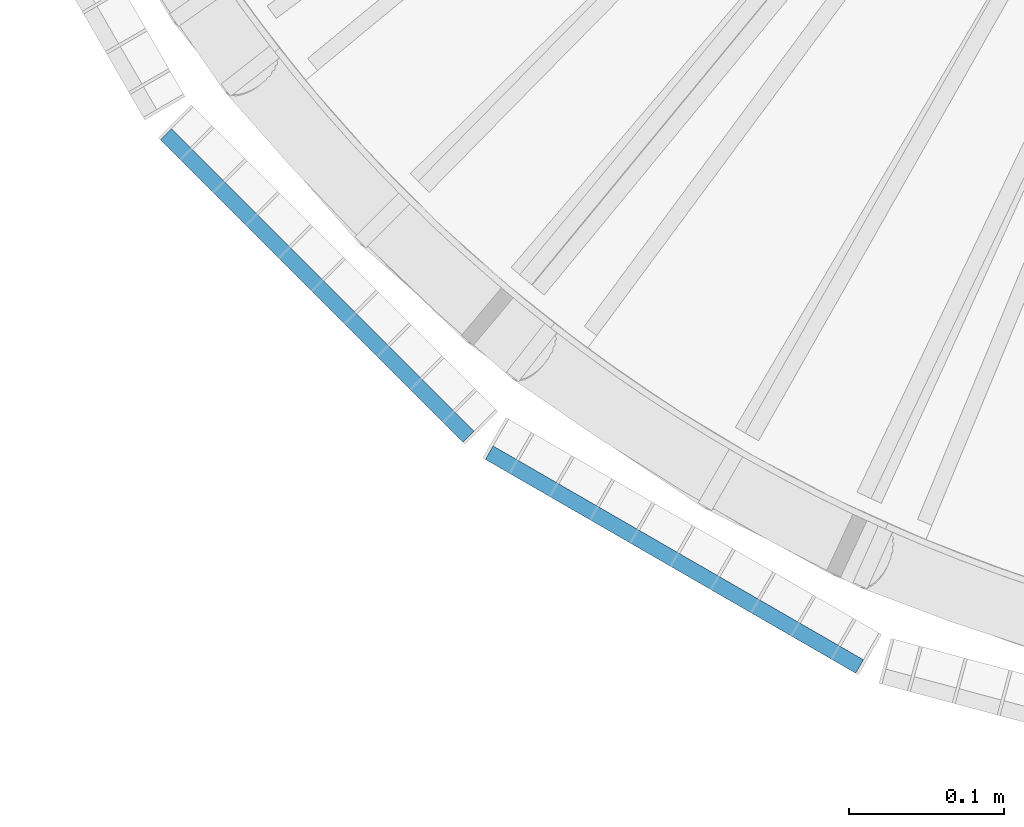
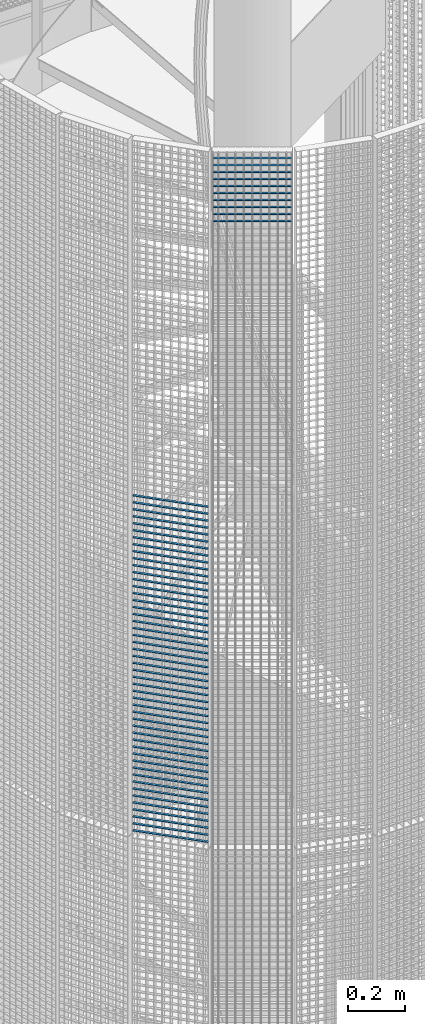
# One storey, part 341 of 1183: 59 beams, 2 elements without a shape of their own.
"""IFC2X3 building model written with IfcOpenShell, lengths in millimetres."""

from ifc_helpers import new_model, si_unit, frame, origin_with_axes, origin_2d_with_axis, place, context, subcontext, project, spatial, rectangle, extrude, material, type_object, element, aggregate, save


model = new_model("IFC2X3")

# Units and contexts
model_context = context("Model", 3, precision=1e-05, world=origin_with_axes())
body_context = subcontext(model_context, "Body", "Model", "MODEL_VIEW")
ifc_project = project(units=[si_unit("LENGTHUNIT", "METRE", prefix="MILLI"), si_unit("AREAUNIT", "SQUARE_METRE"), si_unit("VOLUMEUNIT", "CUBIC_METRE"), si_unit("MASSUNIT", "GRAM", prefix="KILO"), si_unit("TIMEUNIT", "SECOND"), si_unit("PLANEANGLEUNIT", "RADIAN"), si_unit("SOLIDANGLEUNIT", "STERADIAN"), si_unit("THERMODYNAMICTEMPERATUREUNIT", "DEGREE_CELSIUS"), si_unit("LUMINOUSINTENSITYUNIT", "LUMEN")], contexts=[model_context])

# Site, building, storey
site_placement = place(None, origin_with_axes())
site = spatial("IfcSite", under=ifc_project, at=site_placement, Name="Undefined", CompositionType="ELEMENT")
building_placement = place(site_placement, origin_with_axes())
building = spatial("IfcBuilding", under=site, at=building_placement, Name="Undefined", CompositionType="ELEMENT")
storey_placement = place(building_placement, origin_with_axes())
storey = spatial("IfcBuildingStorey", under=building, at=storey_placement, Name="Undefined", CompositionType="ELEMENT", Elevation=0.0)

# Assembly, beams
assembly_1_placement = place(storey_placement, origin_with_axes())
assembly_1 = element("IfcElementAssembly", 1, at=assembly_1_placement, inside=storey, Name="BORDURE", AssemblyPlace="NOTDEFINED", PredefinedType="NOTDEFINED")
ifc_material = material(Name="STEEL/S235JR")
beam_type = type_object("IfcBeamType", Name="PL2*10", PredefinedType="NOTDEFINED")
beam_1_placement = place(assembly_1_placement, frame((20910.2286510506, -884.927168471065, 16470.0), z_axis=(-0.70710678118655, -0.707106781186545, 0.0), x_axis=(-0.707106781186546, 0.707106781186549, 0.0)))
beam_1 = element("IfcBeam", 2, at=beam_1_placement, type_object=beam_type, material=ifc_material, Name="ENTRETOISE", context=body_context, shape_type="SweptSolid", body=[
    extrude(rectangle(XDim=2.0, YDim=10.0, at=origin_2d_with_axis()), frame((275.999999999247, 9.09494701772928e-13, 1.53210777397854e-14), z_axis=(-1.0, 0.0, 0.0), x_axis=(0.0, -1.0, 0.0)), (0.0, 0.0, 1.0), 276.0),
])
beam_2_placement = place(assembly_1_placement, frame((20910.2286510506, -884.927168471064, 16440.0), z_axis=(-0.70710678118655, -0.707106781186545, 0.0), x_axis=(-0.707106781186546, 0.707106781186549, 0.0)))
beam_2 = element("IfcBeam", 3, at=beam_2_placement, type_object=beam_type, material=ifc_material, Name="ENTRETOISE", context=body_context, shape_type="SweptSolid", body=[
    extrude(rectangle(XDim=2.0, YDim=10.0, at=origin_2d_with_axis()), frame((275.999999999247, 9.09494701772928e-13, 1.53210777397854e-14), z_axis=(-1.0, 0.0, 0.0), x_axis=(0.0, -1.0, 0.0)), (0.0, 0.0, 1.0), 276.0),
])
beam_3_placement = place(assembly_1_placement, frame((20910.2286510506, -884.927168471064, 16410.0), z_axis=(-0.70710678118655, -0.707106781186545, 0.0), x_axis=(-0.707106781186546, 0.707106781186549, 0.0)))
beam_3 = element("IfcBeam", 4, at=beam_3_placement, type_object=beam_type, material=ifc_material, Name="ENTRETOISE", context=body_context, shape_type="SweptSolid", body=[
    extrude(rectangle(XDim=2.0, YDim=10.0, at=origin_2d_with_axis()), frame((275.999999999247, 9.09494701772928e-13, 1.53210777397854e-14), z_axis=(-1.0, 0.0, 0.0), x_axis=(0.0, -1.0, 0.0)), (0.0, 0.0, 1.0), 276.0),
])
beam_4_placement = place(assembly_1_placement, frame((20910.2286510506, -884.927168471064, 16380.0), z_axis=(-0.70710678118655, -0.707106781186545, 0.0), x_axis=(-0.707106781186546, 0.707106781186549, 0.0)))
beam_4 = element("IfcBeam", 5, at=beam_4_placement, type_object=beam_type, material=ifc_material, Name="ENTRETOISE", context=body_context, shape_type="SweptSolid", body=[
    extrude(rectangle(XDim=2.0, YDim=10.0, at=origin_2d_with_axis()), frame((275.999999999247, 9.09494701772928e-13, 1.53210777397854e-14), z_axis=(-1.0, 0.0, 0.0), x_axis=(0.0, -1.0, 0.0)), (0.0, 0.0, 1.0), 276.0),
])
beam_5_placement = place(assembly_1_placement, frame((20910.2286510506, -884.927168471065, 16350.0), z_axis=(-0.70710678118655, -0.707106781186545, 0.0), x_axis=(-0.707106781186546, 0.707106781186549, 0.0)))
beam_5 = element("IfcBeam", 6, at=beam_5_placement, type_object=beam_type, material=ifc_material, Name="ENTRETOISE", context=body_context, shape_type="SweptSolid", body=[
    extrude(rectangle(XDim=2.0, YDim=10.0, at=origin_2d_with_axis()), frame((275.999999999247, 9.09494701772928e-13, 1.53210777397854e-14), z_axis=(-1.0, 0.0, 0.0), x_axis=(0.0, -1.0, 0.0)), (0.0, 0.0, 1.0), 276.0),
])
beam_6_placement = place(assembly_1_placement, frame((20910.2286510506, -884.927168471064, 16320.0), z_axis=(-0.70710678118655, -0.707106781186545, 0.0), x_axis=(-0.707106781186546, 0.707106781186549, 0.0)))
beam_6 = element("IfcBeam", 7, at=beam_6_placement, type_object=beam_type, material=ifc_material, Name="ENTRETOISE", context=body_context, shape_type="SweptSolid", body=[
    extrude(rectangle(XDim=2.0, YDim=10.0, at=origin_2d_with_axis()), frame((275.999999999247, 9.09494701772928e-13, 1.53210777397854e-14), z_axis=(-1.0, 0.0, 0.0), x_axis=(0.0, -1.0, 0.0)), (0.0, 0.0, 1.0), 276.0),
])
beam_7_placement = place(assembly_1_placement, frame((20910.2286510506, -884.927168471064, 16290.0), z_axis=(-0.70710678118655, -0.707106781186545, 0.0), x_axis=(-0.707106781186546, 0.707106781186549, 0.0)))
beam_7 = element("IfcBeam", 8, at=beam_7_placement, type_object=beam_type, material=ifc_material, Name="ENTRETOISE", context=body_context, shape_type="SweptSolid", body=[
    extrude(rectangle(XDim=2.0, YDim=10.0, at=origin_2d_with_axis()), frame((275.999999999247, 9.09494701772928e-13, 1.53210777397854e-14), z_axis=(-1.0, 0.0, 0.0), x_axis=(0.0, -1.0, 0.0)), (0.0, 0.0, 1.0), 276.0),
])
beam_8_placement = place(assembly_1_placement, frame((20910.2286510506, -884.927168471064, 16260.0), z_axis=(-0.70710678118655, -0.707106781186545, 0.0), x_axis=(-0.707106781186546, 0.707106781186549, 0.0)))
beam_8 = element("IfcBeam", 9, at=beam_8_placement, type_object=beam_type, material=ifc_material, Name="ENTRETOISE", context=body_context, shape_type="SweptSolid", body=[
    extrude(rectangle(XDim=2.0, YDim=10.0, at=origin_2d_with_axis()), frame((275.999999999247, 9.09494701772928e-13, 1.53210777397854e-14), z_axis=(-1.0, 0.0, 0.0), x_axis=(0.0, -1.0, 0.0)), (0.0, 0.0, 1.0), 276.0),
])
beam_9_placement = place(assembly_1_placement, frame((20910.2286510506, -884.927168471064, 16230.0), z_axis=(-0.70710678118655, -0.707106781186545, 0.0), x_axis=(-0.707106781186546, 0.707106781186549, 0.0)))
beam_9 = element("IfcBeam", 10, at=beam_9_placement, type_object=beam_type, material=ifc_material, Name="ENTRETOISE", context=body_context, shape_type="SweptSolid", body=[
    extrude(rectangle(XDim=2.0, YDim=10.0, at=origin_2d_with_axis()), frame((275.999999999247, 9.09494701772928e-13, 1.53210777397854e-14), z_axis=(-1.0, 0.0, 0.0), x_axis=(0.0, -1.0, 0.0)), (0.0, 0.0, 1.0), 276.0),
])
beam_10_placement = place(assembly_1_placement, frame((20910.2286510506, -884.927168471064, 16200.0), z_axis=(-0.70710678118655, -0.707106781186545, 0.0), x_axis=(-0.707106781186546, 0.707106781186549, 0.0)))
beam_10 = element("IfcBeam", 11, at=beam_10_placement, type_object=beam_type, material=ifc_material, Name="ENTRETOISE", context=body_context, shape_type="SweptSolid", body=[
    extrude(rectangle(XDim=2.0, YDim=10.0, at=origin_2d_with_axis()), frame((275.999999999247, 9.09494701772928e-13, 1.53210777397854e-14), z_axis=(-1.0, 0.0, 0.0), x_axis=(0.0, -1.0, 0.0)), (0.0, 0.0, 1.0), 276.0),
])
beam_11_placement = place(assembly_1_placement, frame((20910.2286510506, -884.927168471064, 16170.0), z_axis=(-0.70710678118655, -0.707106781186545, 0.0), x_axis=(-0.707106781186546, 0.707106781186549, 0.0)))
beam_11 = element("IfcBeam", 12, at=beam_11_placement, type_object=beam_type, material=ifc_material, Name="ENTRETOISE", context=body_context, shape_type="SweptSolid", body=[
    extrude(rectangle(XDim=2.0, YDim=10.0, at=origin_2d_with_axis()), frame((275.999999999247, 9.09494701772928e-13, 1.53210777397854e-14), z_axis=(-1.0, 0.0, 0.0), x_axis=(0.0, -1.0, 0.0)), (0.0, 0.0, 1.0), 276.0),
])
beam_12_placement = place(assembly_1_placement, frame((20910.2286510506, -884.927168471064, 16140.0), z_axis=(-0.70710678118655, -0.707106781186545, 0.0), x_axis=(-0.707106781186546, 0.707106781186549, 0.0)))
beam_12 = element("IfcBeam", 13, at=beam_12_placement, type_object=beam_type, material=ifc_material, Name="ENTRETOISE", context=body_context, shape_type="SweptSolid", body=[
    extrude(rectangle(XDim=2.0, YDim=10.0, at=origin_2d_with_axis()), frame((275.999999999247, 9.09494701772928e-13, 1.53210777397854e-14), z_axis=(-1.0, 0.0, 0.0), x_axis=(0.0, -1.0, 0.0)), (0.0, 0.0, 1.0), 276.0),
])
beam_13_placement = place(assembly_1_placement, frame((20910.2286510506, -884.927168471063, 15720.0), z_axis=(-0.70710678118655, -0.707106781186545, 0.0), x_axis=(-0.707106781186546, 0.707106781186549, 0.0)))
beam_13 = element("IfcBeam", 14, at=beam_13_placement, type_object=beam_type, material=ifc_material, Name="ENTRETOISE", context=body_context, shape_type="SweptSolid", body=[
    extrude(rectangle(XDim=2.0, YDim=10.0, at=origin_2d_with_axis()), frame((275.999999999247, 9.09494701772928e-13, 1.53210777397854e-14), z_axis=(-1.0, 0.0, 0.0), x_axis=(0.0, -1.0, 0.0)), (0.0, 0.0, 1.0), 276.0),
])
beam_14_placement = place(assembly_1_placement, frame((20910.2286510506, -884.927168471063, 15690.0), z_axis=(-0.70710678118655, -0.707106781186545, 0.0), x_axis=(-0.707106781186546, 0.707106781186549, 0.0)))
beam_14 = element("IfcBeam", 15, at=beam_14_placement, type_object=beam_type, material=ifc_material, Name="ENTRETOISE", context=body_context, shape_type="SweptSolid", body=[
    extrude(rectangle(XDim=2.0, YDim=10.0, at=origin_2d_with_axis()), frame((275.999999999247, 9.09494701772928e-13, 1.53210777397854e-14), z_axis=(-1.0, 0.0, 0.0), x_axis=(0.0, -1.0, 0.0)), (0.0, 0.0, 1.0), 276.0),
])
beam_15_placement = place(assembly_1_placement, frame((20910.2286510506, -884.927168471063, 15750.0), z_axis=(-0.70710678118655, -0.707106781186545, 0.0), x_axis=(-0.707106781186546, 0.707106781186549, 0.0)))
beam_15 = element("IfcBeam", 16, at=beam_15_placement, type_object=beam_type, material=ifc_material, Name="ENTRETOISE", context=body_context, shape_type="SweptSolid", body=[
    extrude(rectangle(XDim=2.0, YDim=10.0, at=origin_2d_with_axis()), frame((275.999999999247, 9.09494701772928e-13, 1.53210777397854e-14), z_axis=(-1.0, 0.0, 0.0), x_axis=(0.0, -1.0, 0.0)), (0.0, 0.0, 1.0), 276.0),
])
beam_16_placement = place(assembly_1_placement, frame((20910.2286510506, -884.927168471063, 15660.0), z_axis=(-0.70710678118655, -0.707106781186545, 0.0), x_axis=(-0.707106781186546, 0.707106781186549, 0.0)))
beam_16 = element("IfcBeam", 17, at=beam_16_placement, type_object=beam_type, material=ifc_material, Name="ENTRETOISE", context=body_context, shape_type="SweptSolid", body=[
    extrude(rectangle(XDim=2.0, YDim=10.0, at=origin_2d_with_axis()), frame((275.999999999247, 9.09494701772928e-13, 1.53210777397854e-14), z_axis=(-1.0, 0.0, 0.0), x_axis=(0.0, -1.0, 0.0)), (0.0, 0.0, 1.0), 276.0),
])
beam_17_placement = place(assembly_1_placement, frame((20910.2286510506, -884.927168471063, 15630.0), z_axis=(-0.70710678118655, -0.707106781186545, 0.0), x_axis=(-0.707106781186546, 0.707106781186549, 0.0)))
beam_17 = element("IfcBeam", 18, at=beam_17_placement, type_object=beam_type, material=ifc_material, Name="ENTRETOISE", context=body_context, shape_type="SweptSolid", body=[
    extrude(rectangle(XDim=2.0, YDim=10.0, at=origin_2d_with_axis()), frame((275.999999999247, 9.09494701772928e-13, 1.53210777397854e-14), z_axis=(-1.0, 0.0, 0.0), x_axis=(0.0, -1.0, 0.0)), (0.0, 0.0, 1.0), 276.0),
])
beam_18_placement = place(assembly_1_placement, frame((20910.2286510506, -884.927168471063, 15780.0), z_axis=(-0.70710678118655, -0.707106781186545, 0.0), x_axis=(-0.707106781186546, 0.707106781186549, 0.0)))
beam_18 = element("IfcBeam", 19, at=beam_18_placement, type_object=beam_type, material=ifc_material, Name="ENTRETOISE", context=body_context, shape_type="SweptSolid", body=[
    extrude(rectangle(XDim=2.0, YDim=10.0, at=origin_2d_with_axis()), frame((275.999999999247, 9.09494701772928e-13, 1.53210777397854e-14), z_axis=(-1.0, 0.0, 0.0), x_axis=(0.0, -1.0, 0.0)), (0.0, 0.0, 1.0), 276.0),
])
beam_19_placement = place(assembly_1_placement, frame((20910.2286510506, -884.927168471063, 15600.0), z_axis=(-0.70710678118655, -0.707106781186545, 0.0), x_axis=(-0.707106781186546, 0.707106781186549, 0.0)))
beam_19 = element("IfcBeam", 20, at=beam_19_placement, type_object=beam_type, material=ifc_material, Name="ENTRETOISE", context=body_context, shape_type="SweptSolid", body=[
    extrude(rectangle(XDim=2.0, YDim=10.0, at=origin_2d_with_axis()), frame((275.999999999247, 9.09494701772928e-13, 1.53210777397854e-14), z_axis=(-1.0, 0.0, 0.0), x_axis=(0.0, -1.0, 0.0)), (0.0, 0.0, 1.0), 276.0),
])
beam_20_placement = place(assembly_1_placement, frame((20910.2286510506, -884.927168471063, 15810.0), z_axis=(-0.70710678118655, -0.707106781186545, 0.0), x_axis=(-0.707106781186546, 0.707106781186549, 0.0)))
beam_20 = element("IfcBeam", 21, at=beam_20_placement, type_object=beam_type, material=ifc_material, Name="ENTRETOISE", context=body_context, shape_type="SweptSolid", body=[
    extrude(rectangle(XDim=2.0, YDim=10.0, at=origin_2d_with_axis()), frame((275.999999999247, 9.09494701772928e-13, 1.53210777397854e-14), z_axis=(-1.0, 0.0, 0.0), x_axis=(0.0, -1.0, 0.0)), (0.0, 0.0, 1.0), 276.0),
])
beam_21_placement = place(assembly_1_placement, frame((20910.2286510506, -884.927168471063, 15570.0), z_axis=(-0.70710678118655, -0.707106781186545, 0.0), x_axis=(-0.707106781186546, 0.707106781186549, 0.0)))
beam_21 = element("IfcBeam", 22, at=beam_21_placement, type_object=beam_type, material=ifc_material, Name="ENTRETOISE", context=body_context, shape_type="SweptSolid", body=[
    extrude(rectangle(XDim=2.0, YDim=10.0, at=origin_2d_with_axis()), frame((275.999999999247, 9.09494701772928e-13, 1.53210777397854e-14), z_axis=(-1.0, 0.0, 0.0), x_axis=(0.0, -1.0, 0.0)), (0.0, 0.0, 1.0), 276.0),
])
beam_22_placement = place(assembly_1_placement, frame((20910.2286510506, -884.927168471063, 15540.0), z_axis=(-0.70710678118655, -0.707106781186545, 0.0), x_axis=(-0.707106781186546, 0.707106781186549, 0.0)))
beam_22 = element("IfcBeam", 23, at=beam_22_placement, type_object=beam_type, material=ifc_material, Name="ENTRETOISE", context=body_context, shape_type="SweptSolid", body=[
    extrude(rectangle(XDim=2.0, YDim=10.0, at=origin_2d_with_axis()), frame((275.999999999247, 9.09494701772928e-13, 1.53210777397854e-14), z_axis=(-1.0, 0.0, 0.0), x_axis=(0.0, -1.0, 0.0)), (0.0, 0.0, 1.0), 276.0),
])
beam_23_placement = place(assembly_1_placement, frame((20910.2286510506, -884.927168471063, 15840.0), z_axis=(-0.70710678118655, -0.707106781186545, 0.0), x_axis=(-0.707106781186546, 0.707106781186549, 0.0)))
beam_23 = element("IfcBeam", 24, at=beam_23_placement, type_object=beam_type, material=ifc_material, Name="ENTRETOISE", context=body_context, shape_type="SweptSolid", body=[
    extrude(rectangle(XDim=2.0, YDim=10.0, at=origin_2d_with_axis()), frame((275.999999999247, 9.09494701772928e-13, 1.53210777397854e-14), z_axis=(-1.0, 0.0, 0.0), x_axis=(0.0, -1.0, 0.0)), (0.0, 0.0, 1.0), 276.0),
])
beam_24_placement = place(assembly_1_placement, frame((20910.2286510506, -884.927168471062, 15510.0), z_axis=(-0.70710678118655, -0.707106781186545, 0.0), x_axis=(-0.707106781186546, 0.707106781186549, 0.0)))
beam_24 = element("IfcBeam", 25, at=beam_24_placement, type_object=beam_type, material=ifc_material, Name="ENTRETOISE", context=body_context, shape_type="SweptSolid", body=[
    extrude(rectangle(XDim=2.0, YDim=10.0, at=origin_2d_with_axis()), frame((275.999999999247, 9.09494701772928e-13, 1.53210777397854e-14), z_axis=(-1.0, 0.0, 0.0), x_axis=(0.0, -1.0, 0.0)), (0.0, 0.0, 1.0), 276.0),
])
beam_25_placement = place(assembly_1_placement, frame((20910.2286510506, -884.927168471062, 15480.0), z_axis=(-0.70710678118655, -0.707106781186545, 0.0), x_axis=(-0.707106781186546, 0.707106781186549, 0.0)))
beam_25 = element("IfcBeam", 26, at=beam_25_placement, type_object=beam_type, material=ifc_material, Name="ENTRETOISE", context=body_context, shape_type="SweptSolid", body=[
    extrude(rectangle(XDim=2.0, YDim=10.0, at=origin_2d_with_axis()), frame((275.999999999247, 9.09494701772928e-13, 1.53210777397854e-14), z_axis=(-1.0, 0.0, 0.0), x_axis=(0.0, -1.0, 0.0)), (0.0, 0.0, 1.0), 276.0),
])
beam_26_placement = place(assembly_1_placement, frame((20910.2286510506, -884.927168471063, 15870.0), z_axis=(-0.70710678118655, -0.707106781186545, 0.0), x_axis=(-0.707106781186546, 0.707106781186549, 0.0)))
beam_26 = element("IfcBeam", 27, at=beam_26_placement, type_object=beam_type, material=ifc_material, Name="ENTRETOISE", context=body_context, shape_type="SweptSolid", body=[
    extrude(rectangle(XDim=2.0, YDim=10.0, at=origin_2d_with_axis()), frame((275.999999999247, 9.09494701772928e-13, 1.53210777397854e-14), z_axis=(-1.0, 0.0, 0.0), x_axis=(0.0, -1.0, 0.0)), (0.0, 0.0, 1.0), 276.0),
])
beam_27_placement = place(assembly_1_placement, frame((20910.2286510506, -884.927168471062, 15450.0), z_axis=(-0.70710678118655, -0.707106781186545, 0.0), x_axis=(-0.707106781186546, 0.707106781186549, 0.0)))
beam_27 = element("IfcBeam", 28, at=beam_27_placement, type_object=beam_type, material=ifc_material, Name="ENTRETOISE", context=body_context, shape_type="SweptSolid", body=[
    extrude(rectangle(XDim=2.0, YDim=10.0, at=origin_2d_with_axis()), frame((275.999999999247, 9.09494701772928e-13, 1.53210777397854e-14), z_axis=(-1.0, 0.0, 0.0), x_axis=(0.0, -1.0, 0.0)), (0.0, 0.0, 1.0), 276.0),
])
beam_28_placement = place(assembly_1_placement, frame((20910.2286510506, -884.927168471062, 15420.0), z_axis=(-0.70710678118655, -0.707106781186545, 0.0), x_axis=(-0.707106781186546, 0.707106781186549, 0.0)))
beam_28 = element("IfcBeam", 29, at=beam_28_placement, type_object=beam_type, material=ifc_material, Name="ENTRETOISE", context=body_context, shape_type="SweptSolid", body=[
    extrude(rectangle(XDim=2.0, YDim=10.0, at=origin_2d_with_axis()), frame((275.999999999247, 9.09494701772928e-13, 1.53210777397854e-14), z_axis=(-1.0, 0.0, 0.0), x_axis=(0.0, -1.0, 0.0)), (0.0, 0.0, 1.0), 276.0),
])
beam_29_placement = place(assembly_1_placement, frame((20910.2286510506, -884.927168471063, 15900.0), z_axis=(-0.70710678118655, -0.707106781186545, 0.0), x_axis=(-0.707106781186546, 0.707106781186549, 0.0)))
beam_29 = element("IfcBeam", 30, at=beam_29_placement, type_object=beam_type, material=ifc_material, Name="ENTRETOISE", context=body_context, shape_type="SweptSolid", body=[
    extrude(rectangle(XDim=2.0, YDim=10.0, at=origin_2d_with_axis()), frame((275.999999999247, 9.09494701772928e-13, 1.53210777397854e-14), z_axis=(-1.0, 0.0, 0.0), x_axis=(0.0, -1.0, 0.0)), (0.0, 0.0, 1.0), 276.0),
])
beam_30_placement = place(assembly_1_placement, frame((20910.2286510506, -884.927168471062, 15390.0), z_axis=(-0.70710678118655, -0.707106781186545, 0.0), x_axis=(-0.707106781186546, 0.707106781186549, 0.0)))
beam_30 = element("IfcBeam", 31, at=beam_30_placement, type_object=beam_type, material=ifc_material, Name="ENTRETOISE", context=body_context, shape_type="SweptSolid", body=[
    extrude(rectangle(XDim=2.0, YDim=10.0, at=origin_2d_with_axis()), frame((275.999999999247, 9.09494701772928e-13, 1.53210777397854e-14), z_axis=(-1.0, 0.0, 0.0), x_axis=(0.0, -1.0, 0.0)), (0.0, 0.0, 1.0), 276.0),
])
beam_31_placement = place(assembly_1_placement, frame((20910.2286510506, -884.927168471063, 15930.0), z_axis=(-0.70710678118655, -0.707106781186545, 0.0), x_axis=(-0.707106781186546, 0.707106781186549, 0.0)))
beam_31 = element("IfcBeam", 32, at=beam_31_placement, type_object=beam_type, material=ifc_material, Name="ENTRETOISE", context=body_context, shape_type="SweptSolid", body=[
    extrude(rectangle(XDim=2.0, YDim=10.0, at=origin_2d_with_axis()), frame((275.999999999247, 9.09494701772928e-13, 1.53210777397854e-14), z_axis=(-1.0, 0.0, 0.0), x_axis=(0.0, -1.0, 0.0)), (0.0, 0.0, 1.0), 276.0),
])
beam_32_placement = place(assembly_1_placement, frame((20910.2286510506, -884.927168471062, 15360.0), z_axis=(-0.70710678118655, -0.707106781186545, 0.0), x_axis=(-0.707106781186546, 0.707106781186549, 0.0)))
beam_32 = element("IfcBeam", 33, at=beam_32_placement, type_object=beam_type, material=ifc_material, Name="ENTRETOISE", context=body_context, shape_type="SweptSolid", body=[
    extrude(rectangle(XDim=2.0, YDim=10.0, at=origin_2d_with_axis()), frame((275.999999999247, 9.09494701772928e-13, 1.53210777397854e-14), z_axis=(-1.0, 0.0, 0.0), x_axis=(0.0, -1.0, 0.0)), (0.0, 0.0, 1.0), 276.0),
])
beam_33_placement = place(assembly_1_placement, frame((20910.2286510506, -884.927168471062, 15330.0), z_axis=(-0.70710678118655, -0.707106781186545, 0.0), x_axis=(-0.707106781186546, 0.707106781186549, 0.0)))
beam_33 = element("IfcBeam", 34, at=beam_33_placement, type_object=beam_type, material=ifc_material, Name="ENTRETOISE", context=body_context, shape_type="SweptSolid", body=[
    extrude(rectangle(XDim=2.0, YDim=10.0, at=origin_2d_with_axis()), frame((275.999999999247, 9.09494701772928e-13, 1.53210777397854e-14), z_axis=(-1.0, 0.0, 0.0), x_axis=(0.0, -1.0, 0.0)), (0.0, 0.0, 1.0), 276.0),
])
beam_34_placement = place(assembly_1_placement, frame((20910.2286510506, -884.927168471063, 15960.0), z_axis=(-0.70710678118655, -0.707106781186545, 0.0), x_axis=(-0.707106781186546, 0.707106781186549, 0.0)))
beam_34 = element("IfcBeam", 35, at=beam_34_placement, type_object=beam_type, material=ifc_material, Name="ENTRETOISE", context=body_context, shape_type="SweptSolid", body=[
    extrude(rectangle(XDim=2.0, YDim=10.0, at=origin_2d_with_axis()), frame((275.999999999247, 9.09494701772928e-13, 1.53210777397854e-14), z_axis=(-1.0, 0.0, 0.0), x_axis=(0.0, -1.0, 0.0)), (0.0, 0.0, 1.0), 276.0),
])
beam_35_placement = place(assembly_1_placement, frame((20910.2286510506, -884.927168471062, 15300.0), z_axis=(-0.70710678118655, -0.707106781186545, 0.0), x_axis=(-0.707106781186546, 0.707106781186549, 0.0)))
beam_35 = element("IfcBeam", 36, at=beam_35_placement, type_object=beam_type, material=ifc_material, Name="ENTRETOISE", context=body_context, shape_type="SweptSolid", body=[
    extrude(rectangle(XDim=2.0, YDim=10.0, at=origin_2d_with_axis()), frame((275.999999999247, 9.09494701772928e-13, 1.53210777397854e-14), z_axis=(-1.0, 0.0, 0.0), x_axis=(0.0, -1.0, 0.0)), (0.0, 0.0, 1.0), 276.0),
])
beam_36_placement = place(assembly_1_placement, frame((20910.2286510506, -884.927168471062, 15270.0), z_axis=(-0.70710678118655, -0.707106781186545, 0.0), x_axis=(-0.707106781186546, 0.707106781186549, 0.0)))
beam_36 = element("IfcBeam", 37, at=beam_36_placement, type_object=beam_type, material=ifc_material, Name="ENTRETOISE", context=body_context, shape_type="SweptSolid", body=[
    extrude(rectangle(XDim=2.0, YDim=10.0, at=origin_2d_with_axis()), frame((275.999999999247, 9.09494701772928e-13, 1.53210777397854e-14), z_axis=(-1.0, 0.0, 0.0), x_axis=(0.0, -1.0, 0.0)), (0.0, 0.0, 1.0), 276.0),
])
beam_37_placement = place(assembly_1_placement, frame((20910.2286510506, -884.927168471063, 15990.0), z_axis=(-0.70710678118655, -0.707106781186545, 0.0), x_axis=(-0.707106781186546, 0.707106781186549, 0.0)))
beam_37 = element("IfcBeam", 38, at=beam_37_placement, type_object=beam_type, material=ifc_material, Name="ENTRETOISE", context=body_context, shape_type="SweptSolid", body=[
    extrude(rectangle(XDim=2.0, YDim=10.0, at=origin_2d_with_axis()), frame((275.999999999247, 9.09494701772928e-13, 1.53210777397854e-14), z_axis=(-1.0, 0.0, 0.0), x_axis=(0.0, -1.0, 0.0)), (0.0, 0.0, 1.0), 276.0),
])
beam_38_placement = place(assembly_1_placement, frame((20910.2286510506, -884.927168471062, 15240.0), z_axis=(-0.70710678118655, -0.707106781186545, 0.0), x_axis=(-0.707106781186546, 0.707106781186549, 0.0)))
beam_38 = element("IfcBeam", 39, at=beam_38_placement, type_object=beam_type, material=ifc_material, Name="ENTRETOISE", context=body_context, shape_type="SweptSolid", body=[
    extrude(rectangle(XDim=2.0, YDim=10.0, at=origin_2d_with_axis()), frame((275.999999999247, 9.09494701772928e-13, 1.53210777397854e-14), z_axis=(-1.0, 0.0, 0.0), x_axis=(0.0, -1.0, 0.0)), (0.0, 0.0, 1.0), 276.0),
])
beam_39_placement = place(assembly_1_placement, frame((20910.2286510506, -884.927168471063, 16020.0), z_axis=(-0.70710678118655, -0.707106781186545, 0.0), x_axis=(-0.707106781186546, 0.707106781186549, 0.0)))
beam_39 = element("IfcBeam", 40, at=beam_39_placement, type_object=beam_type, material=ifc_material, Name="ENTRETOISE", context=body_context, shape_type="SweptSolid", body=[
    extrude(rectangle(XDim=2.0, YDim=10.0, at=origin_2d_with_axis()), frame((275.999999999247, 9.09494701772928e-13, 1.53210777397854e-14), z_axis=(-1.0, 0.0, 0.0), x_axis=(0.0, -1.0, 0.0)), (0.0, 0.0, 1.0), 276.0),
])
beam_40_placement = place(assembly_1_placement, frame((20910.2286510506, -884.927168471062, 15210.0), z_axis=(-0.70710678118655, -0.707106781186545, 0.0), x_axis=(-0.707106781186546, 0.707106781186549, 0.0)))
beam_40 = element("IfcBeam", 41, at=beam_40_placement, type_object=beam_type, material=ifc_material, Name="ENTRETOISE", context=body_context, shape_type="SweptSolid", body=[
    extrude(rectangle(XDim=2.0, YDim=10.0, at=origin_2d_with_axis()), frame((275.999999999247, 9.09494701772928e-13, 1.53210777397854e-14), z_axis=(-1.0, 0.0, 0.0), x_axis=(0.0, -1.0, 0.0)), (0.0, 0.0, 1.0), 276.0),
])
beam_41_placement = place(assembly_1_placement, frame((20910.2286510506, -884.927168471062, 15180.0), z_axis=(-0.70710678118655, -0.707106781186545, 0.0), x_axis=(-0.707106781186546, 0.707106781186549, 0.0)))
beam_41 = element("IfcBeam", 42, at=beam_41_placement, type_object=beam_type, material=ifc_material, Name="ENTRETOISE", context=body_context, shape_type="SweptSolid", body=[
    extrude(rectangle(XDim=2.0, YDim=10.0, at=origin_2d_with_axis()), frame((275.999999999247, 9.09494701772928e-13, 1.53210777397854e-14), z_axis=(-1.0, 0.0, 0.0), x_axis=(0.0, -1.0, 0.0)), (0.0, 0.0, 1.0), 276.0),
])
beam_42_placement = place(assembly_1_placement, frame((20910.2286510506, -884.927168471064, 16050.0), z_axis=(-0.70710678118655, -0.707106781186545, 0.0), x_axis=(-0.707106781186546, 0.707106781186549, 0.0)))
beam_42 = element("IfcBeam", 43, at=beam_42_placement, type_object=beam_type, material=ifc_material, Name="ENTRETOISE", context=body_context, shape_type="SweptSolid", body=[
    extrude(rectangle(XDim=2.0, YDim=10.0, at=origin_2d_with_axis()), frame((275.999999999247, 9.09494701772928e-13, 1.53210777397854e-14), z_axis=(-1.0, 0.0, 0.0), x_axis=(0.0, -1.0, 0.0)), (0.0, 0.0, 1.0), 276.0),
])
beam_43_placement = place(assembly_1_placement, frame((20910.2286510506, -884.927168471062, 15150.0), z_axis=(-0.70710678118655, -0.707106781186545, 0.0), x_axis=(-0.707106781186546, 0.707106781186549, 0.0)))
beam_43 = element("IfcBeam", 44, at=beam_43_placement, type_object=beam_type, material=ifc_material, Name="ENTRETOISE", context=body_context, shape_type="SweptSolid", body=[
    extrude(rectangle(XDim=2.0, YDim=10.0, at=origin_2d_with_axis()), frame((275.999999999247, 9.09494701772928e-13, 1.53210777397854e-14), z_axis=(-1.0, 0.0, 0.0), x_axis=(0.0, -1.0, 0.0)), (0.0, 0.0, 1.0), 276.0),
])
beam_44_placement = place(assembly_1_placement, frame((20910.2286510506, -884.927168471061, 15120.0), z_axis=(-0.70710678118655, -0.707106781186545, 0.0), x_axis=(-0.707106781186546, 0.707106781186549, 0.0)))
beam_44 = element("IfcBeam", 45, at=beam_44_placement, type_object=beam_type, material=ifc_material, Name="ENTRETOISE", context=body_context, shape_type="SweptSolid", body=[
    extrude(rectangle(XDim=2.0, YDim=10.0, at=origin_2d_with_axis()), frame((275.999999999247, 9.09494701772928e-13, 1.53210777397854e-14), z_axis=(-1.0, 0.0, 0.0), x_axis=(0.0, -1.0, 0.0)), (0.0, 0.0, 1.0), 276.0),
])
beam_45_placement = place(assembly_1_placement, frame((20910.2286510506, -884.927168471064, 16080.0), z_axis=(-0.70710678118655, -0.707106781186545, 0.0), x_axis=(-0.707106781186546, 0.707106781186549, 0.0)))
beam_45 = element("IfcBeam", 46, at=beam_45_placement, type_object=beam_type, material=ifc_material, Name="ENTRETOISE", context=body_context, shape_type="SweptSolid", body=[
    extrude(rectangle(XDim=2.0, YDim=10.0, at=origin_2d_with_axis()), frame((275.999999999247, 9.09494701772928e-13, 1.53210777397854e-14), z_axis=(-1.0, 0.0, 0.0), x_axis=(0.0, -1.0, 0.0)), (0.0, 0.0, 1.0), 276.0),
])
beam_46_placement = place(assembly_1_placement, frame((20910.2286510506, -884.927168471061, 15090.0), z_axis=(-0.70710678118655, -0.707106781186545, 0.0), x_axis=(-0.707106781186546, 0.707106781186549, 0.0)))
beam_46 = element("IfcBeam", 47, at=beam_46_placement, type_object=beam_type, material=ifc_material, Name="ENTRETOISE", context=body_context, shape_type="SweptSolid", body=[
    extrude(rectangle(XDim=2.0, YDim=10.0, at=origin_2d_with_axis()), frame((275.999999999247, 9.09494701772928e-13, 1.53210777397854e-14), z_axis=(-1.0, 0.0, 0.0), x_axis=(0.0, -1.0, 0.0)), (0.0, 0.0, 1.0), 276.0),
])
beam_47_placement = place(assembly_1_placement, frame((20910.2286510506, -884.927168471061, 15060.0), z_axis=(-0.70710678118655, -0.707106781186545, 0.0), x_axis=(-0.707106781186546, 0.707106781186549, 0.0)))
beam_47 = element("IfcBeam", 48, at=beam_47_placement, type_object=beam_type, material=ifc_material, Name="ENTRETOISE", context=body_context, shape_type="SweptSolid", body=[
    extrude(rectangle(XDim=2.0, YDim=10.0, at=origin_2d_with_axis()), frame((275.999999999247, 9.09494701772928e-13, 1.53210777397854e-14), z_axis=(-1.0, 0.0, 0.0), x_axis=(0.0, -1.0, 0.0)), (0.0, 0.0, 1.0), 276.0),
])
beam_48_placement = place(assembly_1_placement, frame((20910.2286510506, -884.927168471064, 16110.0), z_axis=(-0.70710678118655, -0.707106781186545, 0.0), x_axis=(-0.707106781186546, 0.707106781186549, 0.0)))
beam_48 = element("IfcBeam", 49, at=beam_48_placement, type_object=beam_type, material=ifc_material, Name="ENTRETOISE", context=body_context, shape_type="SweptSolid", body=[
    extrude(rectangle(XDim=2.0, YDim=10.0, at=origin_2d_with_axis()), frame((275.999999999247, 9.09494701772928e-13, 1.53210777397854e-14), z_axis=(-1.0, 0.0, 0.0), x_axis=(0.0, -1.0, 0.0)), (0.0, 0.0, 1.0), 276.0),
])
beam_49_placement = place(assembly_1_placement, frame((20910.2286510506, -884.92716847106, 15030.0), z_axis=(-0.70710678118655, -0.707106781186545, 0.0), x_axis=(-0.707106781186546, 0.707106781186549, 0.0)))
beam_49 = element("IfcBeam", 50, at=beam_49_placement, type_object=beam_type, material=ifc_material, Name="ENTRETOISE", context=body_context, shape_type="SweptSolid", body=[
    extrude(rectangle(XDim=2.0, YDim=10.0, at=origin_2d_with_axis()), frame((275.999999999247, 9.09494701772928e-13, 1.53210777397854e-14), z_axis=(-1.0, 0.0, 0.0), x_axis=(0.0, -1.0, 0.0)), (0.0, 0.0, 1.0), 276.0),
])
aggregate(assembly_1, [beam_1, beam_2, beam_3, beam_4, beam_5, beam_6, beam_7, beam_8, beam_9, beam_10, beam_11, beam_12, beam_13, beam_14, beam_15, beam_16, beam_17, beam_18, beam_19, beam_20, beam_21, beam_22, beam_23, beam_24, beam_25, beam_26, beam_27, beam_28, beam_29, beam_30, beam_31, beam_32, beam_33, beam_34, beam_35, beam_36, beam_37, beam_38, beam_39, beam_40, beam_41, beam_42, beam_43, beam_44, beam_45, beam_46, beam_47, beam_48, beam_49])

assembly_2_placement = place(storey_placement, origin_with_axes())
assembly_2 = element("IfcElementAssembly", 51, at=assembly_2_placement, inside=storey, Name="BORDURE", AssemblyPlace="NOTDEFINED", PredefinedType="NOTDEFINED")
beam_50_placement = place(assembly_2_placement, frame((21162.7680445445, -1033.29996828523, 17970.0), z_axis=(-0.49999999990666, -0.866025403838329, 0.0), x_axis=(-0.866025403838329, 0.499999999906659, 0.0)))
beam_50 = element("IfcBeam", 52, at=beam_50_placement, type_object=beam_type, material=ifc_material, Name="ENTRETOISE", context=body_context, shape_type="SweptSolid", body=[
    extrude(rectangle(XDim=2.0, YDim=10.0, at=origin_2d_with_axis()), frame((275.999999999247, 9.09494701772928e-13, 1.53210777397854e-14), z_axis=(-1.0, 0.0, 0.0), x_axis=(0.0, -1.0, 0.0)), (0.0, 0.0, 1.0), 276.0),
])
beam_51_placement = place(assembly_2_placement, frame((21162.7680445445, -1033.29996828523, 17940.0), z_axis=(-0.49999999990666, -0.866025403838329, 0.0), x_axis=(-0.866025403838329, 0.499999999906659, 0.0)))
beam_51 = element("IfcBeam", 53, at=beam_51_placement, type_object=beam_type, material=ifc_material, Name="ENTRETOISE", context=body_context, shape_type="SweptSolid", body=[
    extrude(rectangle(XDim=2.0, YDim=10.0, at=origin_2d_with_axis()), frame((275.999999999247, 9.09494701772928e-13, 1.53210777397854e-14), z_axis=(-1.0, 0.0, 0.0), x_axis=(0.0, -1.0, 0.0)), (0.0, 0.0, 1.0), 276.0),
])
beam_52_placement = place(assembly_2_placement, frame((21162.7680445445, -1033.29996828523, 17910.0), z_axis=(-0.49999999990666, -0.866025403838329, 0.0), x_axis=(-0.866025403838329, 0.499999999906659, 0.0)))
beam_52 = element("IfcBeam", 54, at=beam_52_placement, type_object=beam_type, material=ifc_material, Name="ENTRETOISE", context=body_context, shape_type="SweptSolid", body=[
    extrude(rectangle(XDim=2.0, YDim=10.0, at=origin_2d_with_axis()), frame((275.999999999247, 9.09494701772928e-13, 1.53210777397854e-14), z_axis=(-1.0, 0.0, 0.0), x_axis=(0.0, -1.0, 0.0)), (0.0, 0.0, 1.0), 276.0),
])
beam_53_placement = place(assembly_2_placement, frame((21162.7680445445, -1033.29996828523, 17880.0), z_axis=(-0.49999999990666, -0.866025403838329, 0.0), x_axis=(-0.866025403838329, 0.499999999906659, 0.0)))
beam_53 = element("IfcBeam", 55, at=beam_53_placement, type_object=beam_type, material=ifc_material, Name="ENTRETOISE", context=body_context, shape_type="SweptSolid", body=[
    extrude(rectangle(XDim=2.0, YDim=10.0, at=origin_2d_with_axis()), frame((275.999999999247, 9.09494701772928e-13, 1.53210777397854e-14), z_axis=(-1.0, 0.0, 0.0), x_axis=(0.0, -1.0, 0.0)), (0.0, 0.0, 1.0), 276.0),
])
beam_54_placement = place(assembly_2_placement, frame((21162.7680445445, -1033.29996828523, 17850.0), z_axis=(-0.49999999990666, -0.866025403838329, 0.0), x_axis=(-0.866025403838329, 0.499999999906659, 0.0)))
beam_54 = element("IfcBeam", 56, at=beam_54_placement, type_object=beam_type, material=ifc_material, Name="ENTRETOISE", context=body_context, shape_type="SweptSolid", body=[
    extrude(rectangle(XDim=2.0, YDim=10.0, at=origin_2d_with_axis()), frame((275.999999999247, 9.09494701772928e-13, 1.53210777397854e-14), z_axis=(-1.0, 0.0, 0.0), x_axis=(0.0, -1.0, 0.0)), (0.0, 0.0, 1.0), 276.0),
])
beam_55_placement = place(assembly_2_placement, frame((21162.7680445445, -1033.29996828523, 17820.0), z_axis=(-0.49999999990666, -0.866025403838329, 0.0), x_axis=(-0.866025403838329, 0.499999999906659, 0.0)))
beam_55 = element("IfcBeam", 57, at=beam_55_placement, type_object=beam_type, material=ifc_material, Name="ENTRETOISE", context=body_context, shape_type="SweptSolid", body=[
    extrude(rectangle(XDim=2.0, YDim=10.0, at=origin_2d_with_axis()), frame((275.999999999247, 9.09494701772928e-13, 1.53210777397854e-14), z_axis=(-1.0, 0.0, 0.0), x_axis=(0.0, -1.0, 0.0)), (0.0, 0.0, 1.0), 276.0),
])
beam_56_placement = place(assembly_2_placement, frame((21162.7680445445, -1033.29996828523, 17790.0), z_axis=(-0.49999999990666, -0.866025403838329, 0.0), x_axis=(-0.866025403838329, 0.499999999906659, 0.0)))
beam_56 = element("IfcBeam", 58, at=beam_56_placement, type_object=beam_type, material=ifc_material, Name="ENTRETOISE", context=body_context, shape_type="SweptSolid", body=[
    extrude(rectangle(XDim=2.0, YDim=10.0, at=origin_2d_with_axis()), frame((275.999999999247, 9.09494701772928e-13, 1.53210777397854e-14), z_axis=(-1.0, 0.0, 0.0), x_axis=(0.0, -1.0, 0.0)), (0.0, 0.0, 1.0), 276.0),
])
beam_57_placement = place(assembly_2_placement, frame((21162.7680445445, -1033.29996828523, 17760.0), z_axis=(-0.49999999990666, -0.866025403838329, 0.0), x_axis=(-0.866025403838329, 0.499999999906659, 0.0)))
beam_57 = element("IfcBeam", 59, at=beam_57_placement, type_object=beam_type, material=ifc_material, Name="ENTRETOISE", context=body_context, shape_type="SweptSolid", body=[
    extrude(rectangle(XDim=2.0, YDim=10.0, at=origin_2d_with_axis()), frame((275.999999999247, 9.09494701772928e-13, 1.53210777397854e-14), z_axis=(-1.0, 0.0, 0.0), x_axis=(0.0, -1.0, 0.0)), (0.0, 0.0, 1.0), 276.0),
])
beam_58_placement = place(assembly_2_placement, frame((21162.7680445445, -1033.29996828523, 17730.0), z_axis=(-0.49999999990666, -0.866025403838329, 0.0), x_axis=(-0.866025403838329, 0.499999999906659, 0.0)))
beam_58 = element("IfcBeam", 60, at=beam_58_placement, type_object=beam_type, material=ifc_material, Name="ENTRETOISE", context=body_context, shape_type="SweptSolid", body=[
    extrude(rectangle(XDim=2.0, YDim=10.0, at=origin_2d_with_axis()), frame((275.999999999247, 9.09494701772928e-13, 1.53210777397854e-14), z_axis=(-1.0, 0.0, 0.0), x_axis=(0.0, -1.0, 0.0)), (0.0, 0.0, 1.0), 276.0),
])
beam_59_placement = place(assembly_2_placement, frame((21162.7680445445, -1033.29996828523, 17700.0), z_axis=(-0.49999999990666, -0.866025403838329, 0.0), x_axis=(-0.866025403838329, 0.499999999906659, 0.0)))
beam_59 = element("IfcBeam", 61, at=beam_59_placement, type_object=beam_type, material=ifc_material, Name="ENTRETOISE", context=body_context, shape_type="SweptSolid", body=[
    extrude(rectangle(XDim=2.0, YDim=10.0, at=origin_2d_with_axis()), frame((275.999999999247, 9.09494701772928e-13, 1.53210777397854e-14), z_axis=(-1.0, 0.0, 0.0), x_axis=(0.0, -1.0, 0.0)), (0.0, 0.0, 1.0), 276.0),
])
aggregate(assembly_2, [beam_50, beam_51, beam_52, beam_53, beam_54, beam_55, beam_56, beam_57, beam_58, beam_59])

save(model, "model.ifc")
